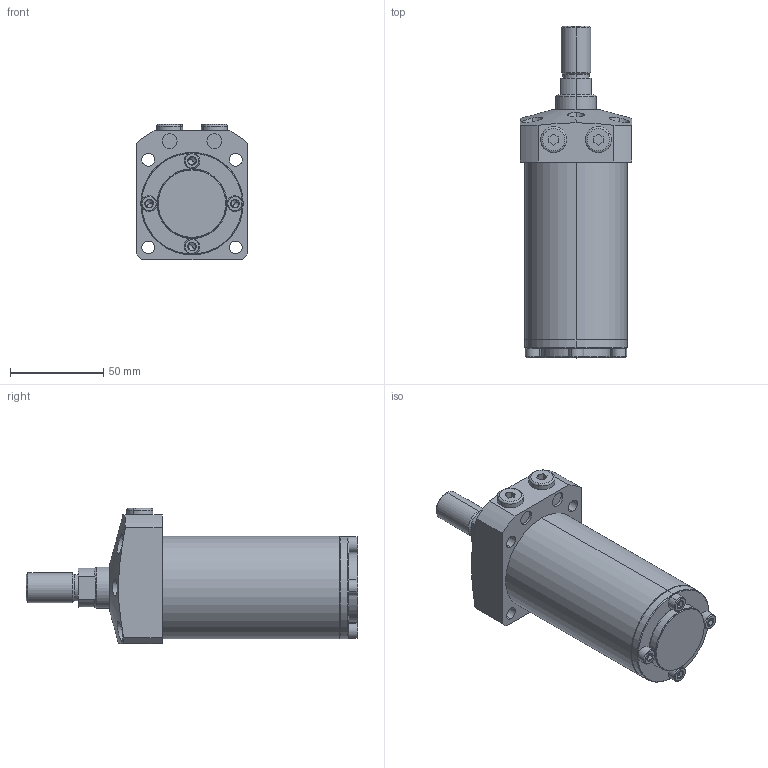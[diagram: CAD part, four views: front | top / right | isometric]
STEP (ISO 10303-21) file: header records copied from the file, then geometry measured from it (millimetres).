
FILE_DESCRIPTION (( 'STEP AP203' ), '1' );
FILE_NAME ('680550-CT-076.step', '2016-11-02T03:23:52', ( 'wxp' ), ( '' ), 'SwSTEP 2.0', 'SolidWorks 2011', '' );
FILE_SCHEMA (( 'CONFIG_CONTROL_DESIGN' ));
Length unit declared in the file: millimetre
Products named in the file (7): 680550-CT-076; 葩璃 680550-15-11^680550-CT-076; 葩璃 68055-CA-51-6^680550-CT-076; 葩璃 68055-CA-51-5^680550-CT-076; 葩璃 68055-CA-51-4^680550-CT-076; 葩璃 68055-CA-51-3^680550-CT-076; 葩璃 68055-CA-51-1^680550-CT-076
Assembly tree (13 placements, depth 2):
  680550-CT-076
    葩璃 68055-CA-51-6^680550-CT-076  x2
    葩璃 68055-CA-51-5^680550-CT-076  x4
    葩璃 68055-CA-51-4^680550-CT-076  x4
    葩璃 68055-CA-51-3^680550-CT-076
    葩璃 680550-15-11^680550-CT-076
    葩璃 68055-CA-51-1^680550-CT-076
Bounding box: 60 x 178 x 72.5 mm (x, y, z)
Volume: 349985.9 mm3; surface area: 59489.8 mm2
Topology: 13 solids, 13 shells, 414 faces, 794 edges, 425 vertices
Faces by surface type: plane 173, cone 120, cylinder 105, torus 16
Entity records: 6949 total; most frequent: CARTESIAN_POINT 1646, DIRECTION 1011, ORIENTED_EDGE 824, AXIS2_PLACEMENT_3D 421, EDGE_CURVE 412, VERTEX_POINT 243, EDGE_LOOP 239, CIRCLE 203
